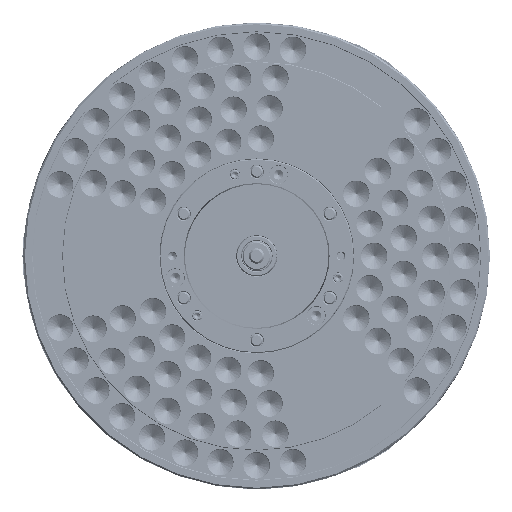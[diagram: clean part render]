
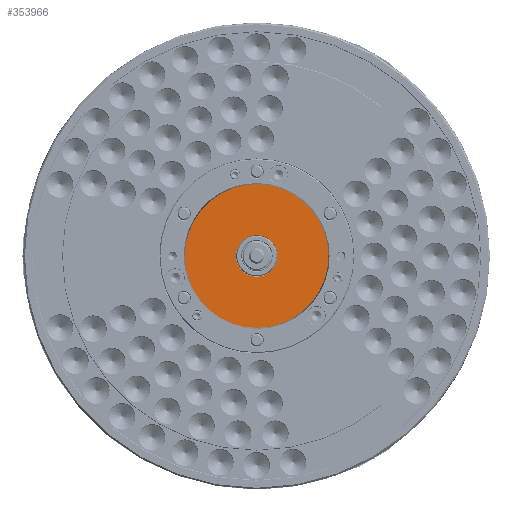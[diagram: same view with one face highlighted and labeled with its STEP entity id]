
A CAD part, left-side view. The second image highlights one B-rep face of the part: STEP entity #353966.
In plain terms, the highlighted planar face has unit normal (-1, 0, 0).
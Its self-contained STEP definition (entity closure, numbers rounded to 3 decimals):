
#19684 = CARTESIAN_POINT ( 'NONE',  ( -145., 0., 0. ) ) ;
#22723 = EDGE_CURVE ( 'NONE', #231572, #128987, #186842, .T. ) ;
#24288 = VERTEX_POINT ( 'NONE', #243974 ) ;
#63404 = EDGE_CURVE ( 'NONE', #128987, #231572, #166331, .T. ) ;
#90588 = AXIS2_PLACEMENT_3D ( 'NONE', #19684, #153353, #242939 ) ;
#101079 = EDGE_CURVE ( 'NONE', #24288, #295715, #323917, .T. ) ;
#107994 = CIRCLE ( 'NONE', #312503, 40.6 ) ;
#112253 = CARTESIAN_POINT ( 'NONE',  ( -145., 0., 0. ) ) ;
#122739 = CARTESIAN_POINT ( 'NONE',  ( -145., 0., 0. ) ) ;
#122758 = ORIENTED_EDGE ( 'NONE', *, *, #101079, .F. ) ;
#128184 = DIRECTION ( 'NONE',  ( 1., 0., 0. ) ) ;
#128341 = AXIS2_PLACEMENT_3D ( 'NONE', #112253, #220245, #190982 ) ;
#128987 = VERTEX_POINT ( 'NONE', #310726 ) ;
#129991 = ORIENTED_EDGE ( 'NONE', *, *, #63404, .T. ) ;
#130365 = DIRECTION ( 'NONE',  ( -1., 0., 0. ) ) ;
#133943 = CARTESIAN_POINT ( 'NONE',  ( -145., 0., 0. ) ) ;
#137593 = EDGE_CURVE ( 'NONE', #295715, #24288, #107994, .T. ) ;
#153353 = DIRECTION ( 'NONE',  ( -1., 0., 0. ) ) ;
#161020 = FACE_OUTER_BOUND ( 'NONE', #261847, .T. ) ;
#166098 = AXIS2_PLACEMENT_3D ( 'NONE', #133943, #130365, #192447 ) ;
#166331 = CIRCLE ( 'NONE', #90588, 140.7 ) ;
#166904 = EDGE_LOOP ( 'NONE', ( #122758, #229390 ) ) ;
#186842 = CIRCLE ( 'NONE', #128341, 140.7 ) ;
#190982 = DIRECTION ( 'NONE',  ( 0., 0., 1. ) ) ;
#192071 = DIRECTION ( 'NONE',  ( 0., 0., -1. ) ) ;
#192447 = DIRECTION ( 'NONE',  ( 0., 0., 1. ) ) ;
#205074 = DIRECTION ( 'NONE',  ( -1., 0., 0. ) ) ;
#215958 = FACE_BOUND ( 'NONE', #166904, .T. ) ;
#220245 = DIRECTION ( 'NONE',  ( -1., 0., 0. ) ) ;
#229390 = ORIENTED_EDGE ( 'NONE', *, *, #137593, .F. ) ;
#230734 = DIRECTION ( 'NONE',  ( 0., 0., 1. ) ) ;
#231572 = VERTEX_POINT ( 'NONE', #268936 ) ;
#242939 = DIRECTION ( 'NONE',  ( 0., 0., 1. ) ) ;
#243974 = CARTESIAN_POINT ( 'NONE',  ( -145., 0., 40.6 ) ) ;
#261847 = EDGE_LOOP ( 'NONE', ( #129991, #350927 ) ) ;
#268936 = CARTESIAN_POINT ( 'NONE',  ( -145., 0., -140.7 ) ) ;
#295715 = VERTEX_POINT ( 'NONE', #303170 ) ;
#303170 = CARTESIAN_POINT ( 'NONE',  ( -145., 0., -40.6 ) ) ;
#310726 = CARTESIAN_POINT ( 'NONE',  ( -145., 0., 140.7 ) ) ;
#312503 = AXIS2_PLACEMENT_3D ( 'NONE', #122739, #205074, #230734 ) ;
#323917 = CIRCLE ( 'NONE', #166098, 40.6 ) ;
#331187 = PLANE ( 'NONE',  #357944 ) ;
#350927 = ORIENTED_EDGE ( 'NONE', *, *, #22723, .T. ) ;
#353255 = CARTESIAN_POINT ( 'NONE',  ( -145., 140.7, 0. ) ) ;
#353966 = ADVANCED_FACE ( 'NONE', ( #215958, #161020 ), #331187, .F. ) ;
#357944 = AXIS2_PLACEMENT_3D ( 'NONE', #353255, #128184, #192071 ) ;
